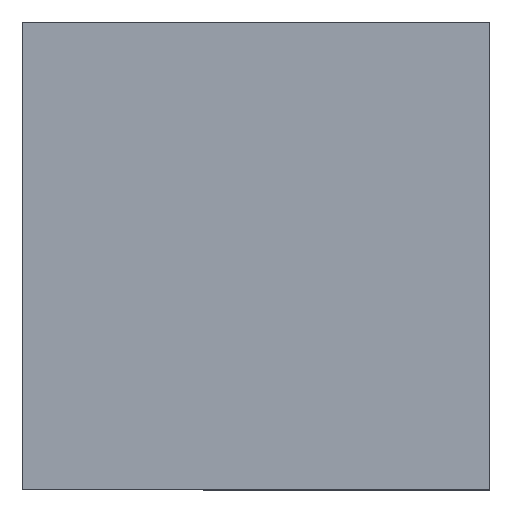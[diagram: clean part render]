
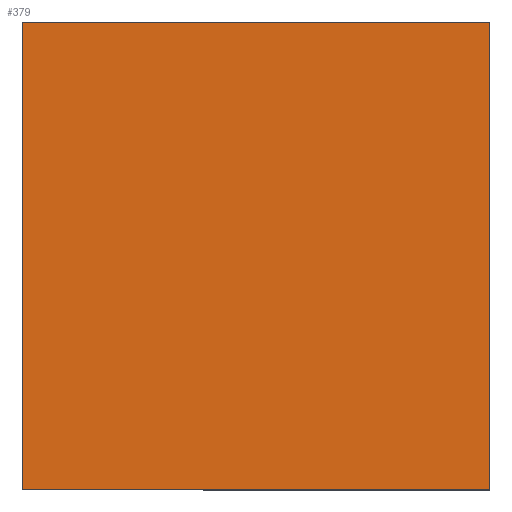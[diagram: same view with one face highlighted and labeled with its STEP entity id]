
A CAD part, top view. The second image highlights one B-rep face of the part: STEP entity #379.
In plain terms, the highlighted planar face has unit normal (0, 0, 1).
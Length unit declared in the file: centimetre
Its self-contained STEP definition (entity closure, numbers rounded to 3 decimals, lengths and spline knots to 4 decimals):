
#15 = CARTESIAN_POINT ( 'NONE',  ( 1000., 1000., 1000. ) ) ;
#18 = EDGE_CURVE ( 'NONE', #103, #67, #198, .T. ) ;
#23 = ORIENTED_EDGE ( 'NONE', *, *, #18, .T. ) ;
#27 = CARTESIAN_POINT ( 'NONE',  ( 0., 0., 1000. ) ) ;
#32 = VERTEX_POINT ( 'NONE', #226 ) ;
#51 = EDGE_CURVE ( 'NONE', #67, #137, #99, .T. ) ;
#57 = CARTESIAN_POINT ( 'NONE',  ( 0., 0., 1000. ) ) ;
#67 = VERTEX_POINT ( 'NONE', #228 ) ;
#71 = AXIS2_PLACEMENT_3D ( 'NONE', #27, #286, #409 ) ;
#90 = CARTESIAN_POINT ( 'NONE',  ( 0., 1000., 1000. ) ) ;
#96 = FACE_OUTER_BOUND ( 'NONE', #142, .T. ) ;
#99 = LINE ( 'NONE', #260, #329 ) ;
#103 = VERTEX_POINT ( 'NONE', #57 ) ;
#123 = DIRECTION ( 'NONE',  ( 0., -1., 0. ) ) ;
#137 = VERTEX_POINT ( 'NONE', #15 ) ;
#142 = EDGE_LOOP ( 'NONE', ( #291, #23, #378, #324 ) ) ;
#196 = LINE ( 'NONE', #344, #314 ) ;
#198 = LINE ( 'NONE', #345, #363 ) ;
#223 = LINE ( 'NONE', #90, #332 ) ;
#226 = CARTESIAN_POINT ( 'NONE',  ( 0., 1000., 1000. ) ) ;
#228 = CARTESIAN_POINT ( 'NONE',  ( 1000., 0., 1000. ) ) ;
#260 = CARTESIAN_POINT ( 'NONE',  ( 1000., 1000., 1000. ) ) ;
#286 = DIRECTION ( 'NONE',  ( 0., 0., 1. ) ) ;
#291 = ORIENTED_EDGE ( 'NONE', *, *, #306, .T. ) ;
#306 = EDGE_CURVE ( 'NONE', #32, #103, #196, .T. ) ;
#314 = VECTOR ( 'NONE', #123, 100. ) ;
#318 = PLANE ( 'NONE',  #71 ) ;
#319 = EDGE_CURVE ( 'NONE', #137, #32, #223, .T. ) ;
#322 = DIRECTION ( 'NONE',  ( 1., 0., 0. ) ) ;
#324 = ORIENTED_EDGE ( 'NONE', *, *, #319, .T. ) ;
#329 = VECTOR ( 'NONE', #347, 100. ) ;
#332 = VECTOR ( 'NONE', #349, 100. ) ;
#344 = CARTESIAN_POINT ( 'NONE',  ( 0., 1000., 1000. ) ) ;
#345 = CARTESIAN_POINT ( 'NONE',  ( 0., 0., 1000. ) ) ;
#347 = DIRECTION ( 'NONE',  ( 0., 1., 0. ) ) ;
#349 = DIRECTION ( 'NONE',  ( -1., 0., 0. ) ) ;
#363 = VECTOR ( 'NONE', #322, 100. ) ;
#378 = ORIENTED_EDGE ( 'NONE', *, *, #51, .T. ) ;
#379 = ADVANCED_FACE ( 'NONE', ( #96 ), #318, .T. ) ;
#409 = DIRECTION ( 'NONE',  ( 1., 0., 0. ) ) ;
